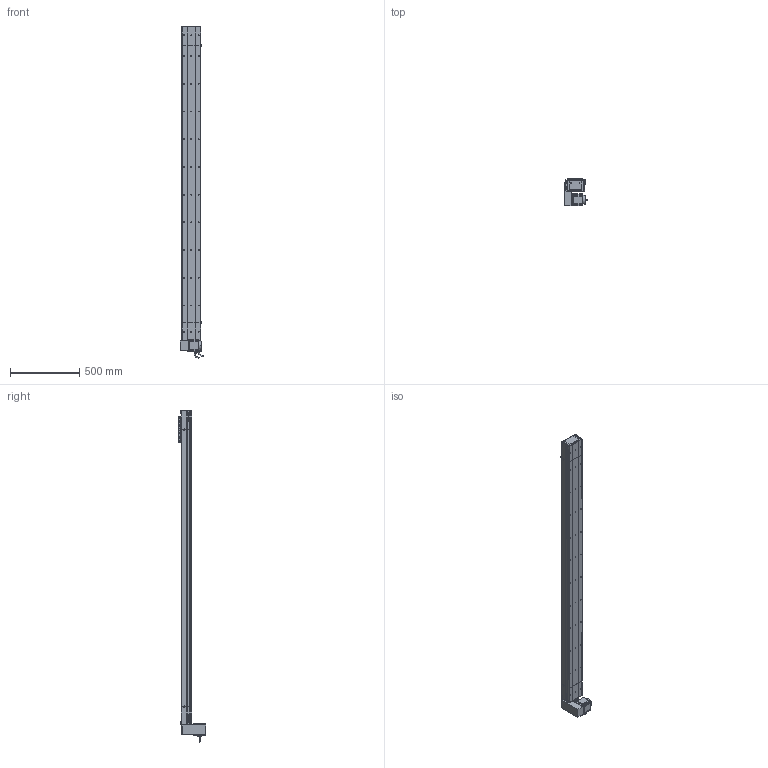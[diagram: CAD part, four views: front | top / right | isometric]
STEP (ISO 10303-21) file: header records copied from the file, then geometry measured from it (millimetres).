
FILE_DESCRIPTION (( 'STEP AP214' ), '1' );
FILE_NAME ('D14 CBH S2000 RU.STEP', '2010-06-30T07:07:59', ( 'Conseil Régional Haute-Normandie' ), ( 'Conseil Régional Haute-Normandie' ), 'SwSTEP 2.0', 'SolidWorks 2010', '' );
FILE_SCHEMA (( 'AUTOMOTIVE_DESIGN' ));
Length unit declared in the file: millimetre
Products named in the file (28): couvercle Head D14 CBH; Conecteur_Default; Conecteur2_Default; codeur GMB 90 70 310; corps GMB 90 70 310; avant GMB 90 70 310; GMB 90 70 310; Support moteur Head D14 CBH; plaque fermeture Head D14 CBH; Vis CHC M8; plaque de maintient CBH D14; Course CBH S2000; D14 CBH S2000 RU; chariot D14; couvercle CBH S2000; corps CBH S2000; vis CHC M5; chariot supérieur D14; charriot inférieur D14; couvercle tail CBH D14; plaque de bout tail CBH d14; Tail CBH D14 B; Head D14 CBH; Head D14 CBH RU; corps tail  CBH d14 B; vis CHC M7; plaque de bout Head D14 CBH; corps Head D14 CBH
Assembly tree (51 placements, depth 4):
  D14 CBH S2000 RU
    chariot D14
      vis CHC M5  x4
      vis CHC M7  x8
      chariot supérieur D14
      charriot inférieur D14
    Tail CBH D14 B
      vis CHC M7  x4
      couvercle tail CBH D14
      plaque de bout tail CBH d14
      plaque de maintient CBH D14
      Vis CHC M8  x2
      corps tail  CBH d14 B
    Head D14 CBH RU
      GMB 90 70 310
        Conecteur2_Default
        codeur GMB 90 70 310
        avant GMB 90 70 310
        corps GMB 90 70 310
        Conecteur_Default
      plaque fermeture Head D14 CBH  x3
      Support moteur Head D14 CBH
      Head D14 CBH
        Vis CHC M8  x2
        vis CHC M7  x4
        plaque de bout Head D14 CBH
        couvercle Head D14 CBH
        plaque de maintient CBH D14
        corps Head D14 CBH
    Course CBH S2000
      couvercle CBH S2000
      corps CBH S2000
Bounding box: 171.5 x 195.75 x 2395.95 mm (x, y, z)
Volume: 6883515.9 mm3; surface area: 2286607.5 mm2
Topology: 51 solids, 51 shells, 2492 faces, 6450 edges, 4238 vertices
Faces by surface type: plane 1371, bspline 538, cylinder 470, torus 61, cone 48, sphere 4
Entity records: 110409 total; most frequent: CARTESIAN_POINT 58358, ORIENTED_EDGE 11196, DIRECTION 8523, EDGE_CURVE 5598, VERTEX_POINT 3702, LINE 3701, VECTOR 3701, AXIS2_PLACEMENT_3D 2411
